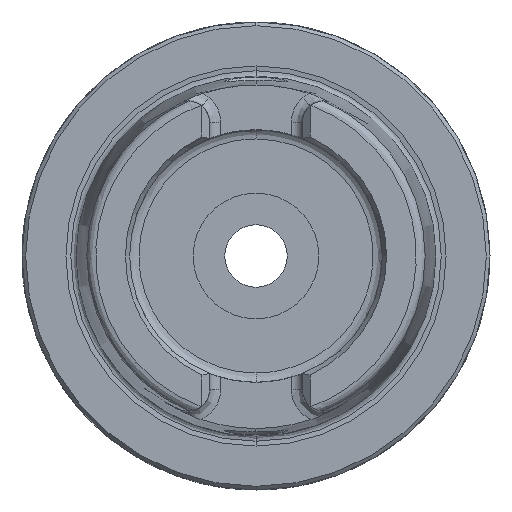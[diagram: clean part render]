
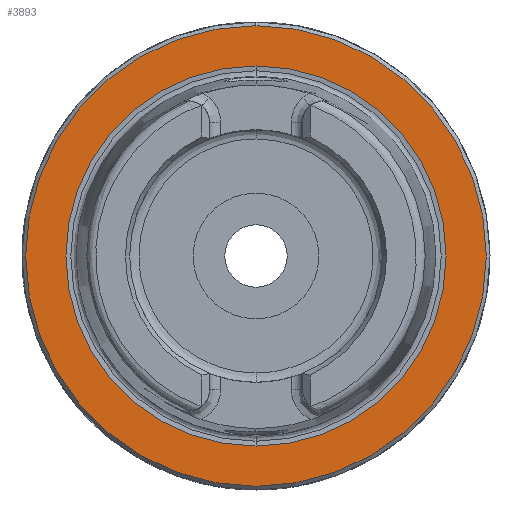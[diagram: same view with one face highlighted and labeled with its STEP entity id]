
A CAD part, left-side view. The second image highlights one B-rep face of the part: STEP entity #3893.
In plain terms, the highlighted planar face has unit normal (-1, 0, 0).
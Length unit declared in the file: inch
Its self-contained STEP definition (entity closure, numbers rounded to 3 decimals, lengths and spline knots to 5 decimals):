
#6 = DIRECTION ( 'NONE',  ( 1., 0., 0. ) ) ;
#307 = ORIENTED_EDGE ( 'NONE', *, *, #4313, .T. ) ;
#482 = DIRECTION ( 'NONE',  ( 1., 0., 0. ) ) ;
#912 = DIRECTION ( 'NONE',  ( 1., 0., 0. ) ) ;
#1315 = DIRECTION ( 'NONE',  ( -1., 0., 0. ) ) ;
#1347 = DIRECTION ( 'NONE',  ( 1., 0., 0. ) ) ;
#1879 = DIRECTION ( 'NONE',  ( 0., 0., 1. ) ) ;
#1979 = CARTESIAN_POINT ( 'NONE',  ( 0., 0., 0. ) ) ;
#2037 = EDGE_LOOP ( 'NONE', ( #4273, #3230 ) ) ;
#2168 = VERTEX_POINT ( 'NONE', #2969 ) ;
#2232 = EDGE_CURVE ( 'NONE', #3610, #6964, #7589, .T. ) ;
#2483 = FACE_OUTER_BOUND ( 'NONE', #2037, .T. ) ;
#2675 = VERTEX_POINT ( 'NONE', #4827 ) ;
#2969 = CARTESIAN_POINT ( 'NONE',  ( 0., 0., 1.0074 ) ) ;
#3010 = DIRECTION ( 'NONE',  ( 0., 0., -1. ) ) ;
#3230 = ORIENTED_EDGE ( 'NONE', *, *, #2232, .F. ) ;
#3279 = DIRECTION ( 'NONE',  ( 0., 0., 1. ) ) ;
#3610 = VERTEX_POINT ( 'NONE', #7544 ) ;
#3893 = ADVANCED_FACE ( 'NONE', ( #7043, #2483 ), #5163, .T. ) ;
#4209 = CIRCLE ( 'NONE', #5165, 1.0074 ) ;
#4273 = ORIENTED_EDGE ( 'NONE', *, *, #6699, .F. ) ;
#4313 = EDGE_CURVE ( 'NONE', #2675, #2168, #7481, .T. ) ;
#4348 = AXIS2_PLACEMENT_3D ( 'NONE', #7729, #1315, #1879 ) ;
#4736 = AXIS2_PLACEMENT_3D ( 'NONE', #4926, #912, #3010 ) ;
#4827 = CARTESIAN_POINT ( 'NONE',  ( 0., 0., -1.0074 ) ) ;
#4926 = CARTESIAN_POINT ( 'NONE',  ( 0., 0., 0. ) ) ;
#4927 = DIRECTION ( 'NONE',  ( 0., 0., -1. ) ) ;
#5163 = PLANE ( 'NONE',  #4348 ) ;
#5165 = AXIS2_PLACEMENT_3D ( 'NONE', #1979, #6, #7693 ) ;
#5300 = CARTESIAN_POINT ( 'NONE',  ( 0., 0., -1.22047 ) ) ;
#5443 = EDGE_CURVE ( 'NONE', #2168, #2675, #4209, .T. ) ;
#5569 = CARTESIAN_POINT ( 'NONE',  ( 0., 0., 0. ) ) ;
#6699 = EDGE_CURVE ( 'NONE', #6964, #3610, #7176, .T. ) ;
#6893 = ORIENTED_EDGE ( 'NONE', *, *, #5443, .T. ) ;
#6908 = AXIS2_PLACEMENT_3D ( 'NONE', #5569, #482, #4927 ) ;
#6964 = VERTEX_POINT ( 'NONE', #5300 ) ;
#7043 = FACE_BOUND ( 'NONE', #7151, .T. ) ;
#7151 = EDGE_LOOP ( 'NONE', ( #6893, #307 ) ) ;
#7176 = CIRCLE ( 'NONE', #4736, 1.22047 ) ;
#7481 = CIRCLE ( 'NONE', #7759, 1.0074 ) ;
#7544 = CARTESIAN_POINT ( 'NONE',  ( 0., 0., 1.22047 ) ) ;
#7589 = CIRCLE ( 'NONE', #6908, 1.22047 ) ;
#7693 = DIRECTION ( 'NONE',  ( 0., 0., 1. ) ) ;
#7729 = CARTESIAN_POINT ( 'NONE',  ( 0., 1.22047, 0. ) ) ;
#7759 = AXIS2_PLACEMENT_3D ( 'NONE', #7845, #1347, #3279 ) ;
#7845 = CARTESIAN_POINT ( 'NONE',  ( 0., 0., 0. ) ) ;
